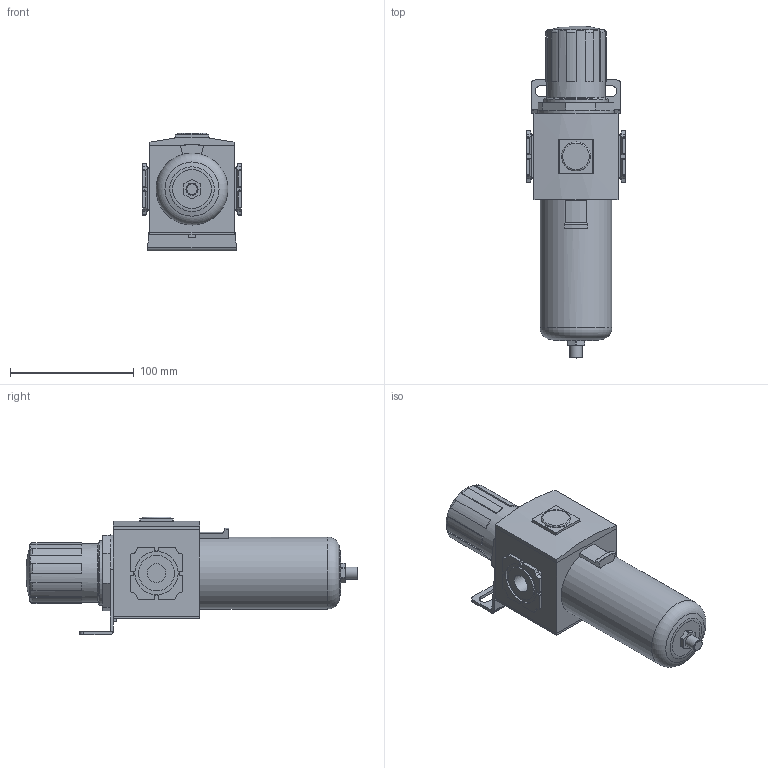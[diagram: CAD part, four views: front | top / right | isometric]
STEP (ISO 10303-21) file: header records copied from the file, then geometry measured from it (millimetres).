
FILE_DESCRIPTION( ( 'STEP AP214' ), '1' );
FILE_NAME( 'C:/Users/emc03072/Desktop/EAW/EAW4000-03DF25M.stp', '2026-08-14T16:35:49', ( 'License CC BY-ND 4.0' ), ( 'CADENAS' ), ' ', 'PARTsolutions', ' ' );
FILE_SCHEMA( ( 'AUTOMOTIVE_DESIGN { 1 0 10303 214 1 1 1 1 }' ) );
Length unit declared in the file: millimetre
Products named in the file (2): EAW4000-03DF25M; _EAW4000-03DF25M-body
Assembly tree (1 placements, depth 2):
  EAW4000-03DF25M
    _EAW4000-03DF25M-body
Bounding box: 80 x 268.58 x 95.3 mm (x, y, z)
Volume: 824793.8 mm3; surface area: 75947.7 mm2
Topology: 1 solids, 2 shells, 352 faces, 954 edges, 625 vertices
Faces by surface type: plane 288, cylinder 47, torus 10, cone 6, sphere 1
Full cylindrical faces by diameter (mm): 9.726 x1, 14.95 x2, 23.5 x1, 28.8 x2, 35 x2, 42 x1, 47.28 x1, 52 x2, 58.094 x1
Entity records: 13705 total; most frequent: CARTESIAN_POINT 1906, ORIENTED_EDGE 1854, DIRECTION 1821, EDGE_CURVE 927, LINE 739, VECTOR 739, VERTEX_POINT 624, AXIS2_PLACEMENT_3D 541
